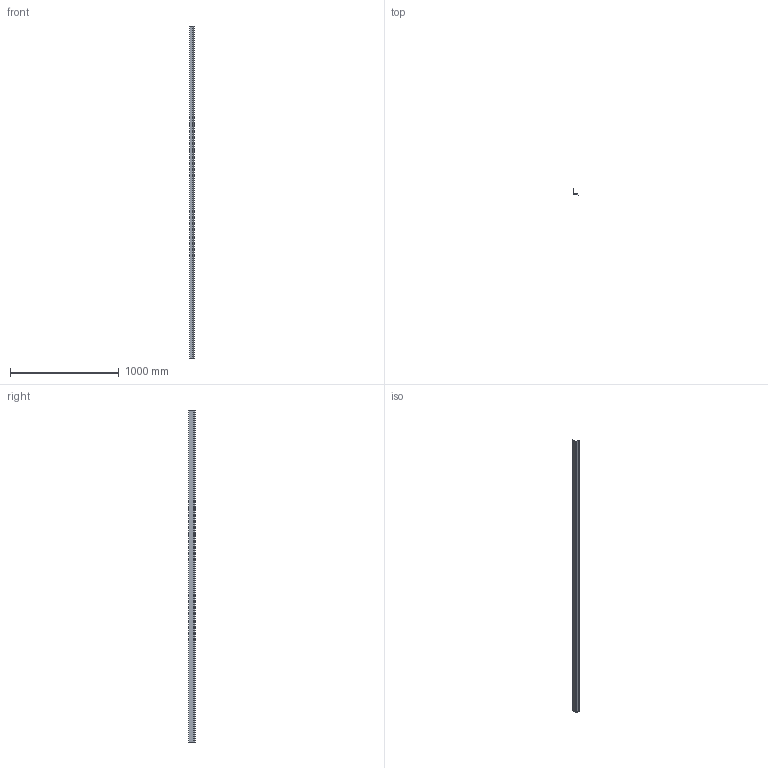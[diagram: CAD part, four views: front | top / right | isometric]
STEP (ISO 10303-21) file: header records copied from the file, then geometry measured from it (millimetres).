
FILE_DESCRIPTION(/* description */ (''),/* implementation_level */ '2;1');
FILE_NAME(/* name */ 'M53I.stp',/* time_stamp */ '2025-02-27T16:27:26-05:00',/* author */ ('samuel.gauthier'),/* organization */ (''),/* preprocessor_version */ 'ST-DEVELOPER v20',/* originating_system */ 'Autodesk Inventor 2025',/* authorisation */ '');
FILE_SCHEMA (('AUTOMOTIVE_DESIGN { 1 0 10303 214 3 1 1 }'));
Length unit declared in the file: inch
Products named in the file (1): M53I
Bounding box: 41.3 x 62.71 x 3048 mm (x, y, z)
Volume: 219262 mm3; surface area: 866476.7 mm2
Topology: 1 solids, 1 shells, 22 faces, 60 edges, 40 vertices
Faces by surface type: plane 14, cylinder 8
Entity records: 745 total; most frequent: CARTESIAN_POINT 123, DIRECTION 122, ORIENTED_EDGE 120, EDGE_CURVE 60, LINE 44, VECTOR 44, VERTEX_POINT 40, AXIS2_PLACEMENT_3D 39
